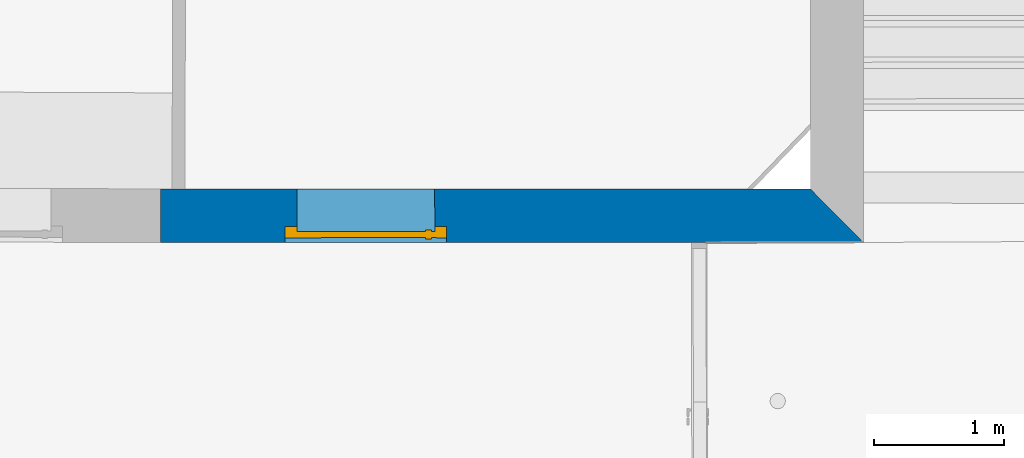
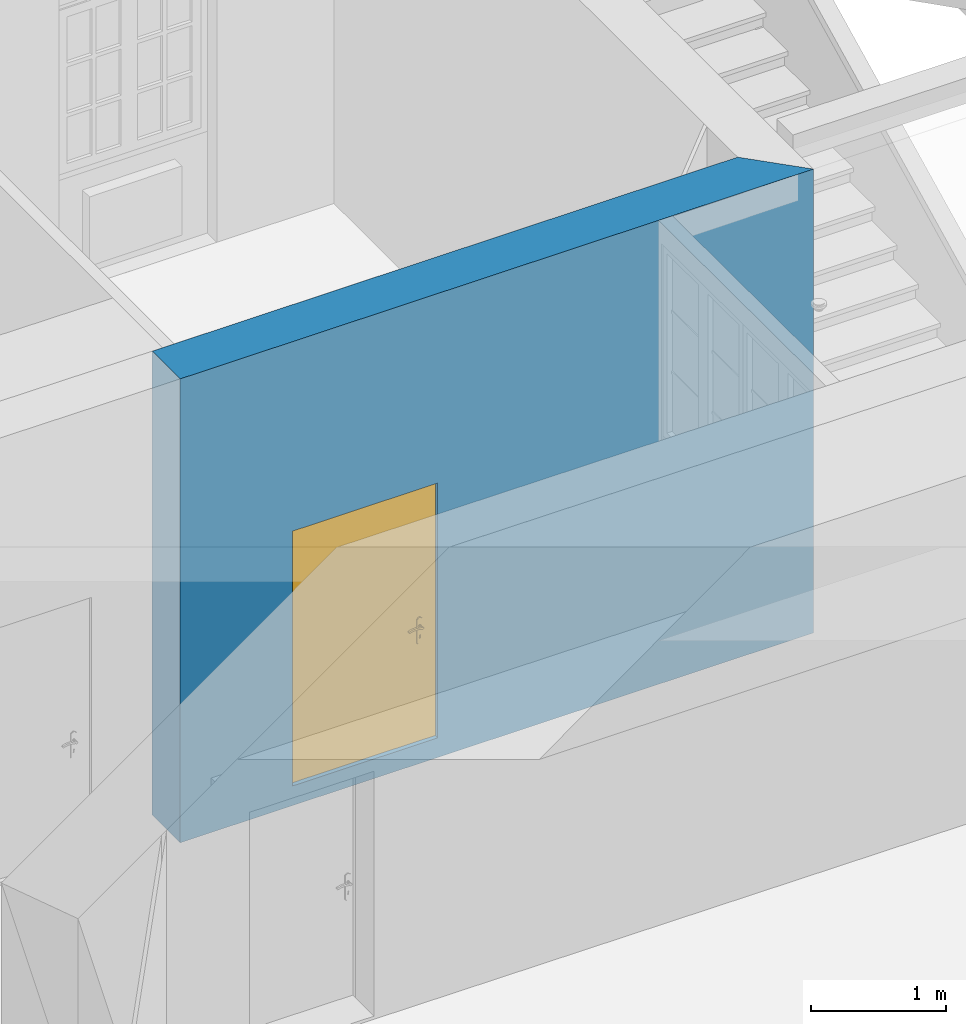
# One storey, part 14 of 90: 1 door, 1 wall, 1 opening.
"""IFC2X3 building model written with IfcOpenShell, lengths in metres."""

from ifc_helpers import new_model, entity, si_unit, converted_unit, derived_unit, money_unit, direction, frame, origin_with_axes, origin_2d_with_axis, place, context, subcontext, project, spatial, polyline, rectangle, outline, extrude, faceted_brep, source, transform, mapped, material, layer, layer_set, layer_usage, type_object, element, fill, save


model = new_model("IFC2X3")

# Units and contexts
model_context = context("Model", 3, precision=1e-05, world=origin_with_axes(), true_north=direction((0.0, 1.0)))
body_context = subcontext(model_context, "Body", "Model", "MODEL_VIEW")
ifc_project = project(units=[si_unit("LENGTHUNIT", "METRE"), si_unit("AREAUNIT", "SQUARE_METRE"), si_unit("VOLUMEUNIT", "CUBIC_METRE"), converted_unit("PLANEANGLEUNIT", "DEGREE", entity("IfcPlaneAngleMeasure", 0.0174532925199), si_unit("PLANEANGLEUNIT", "RADIAN"), dimensions=[0, 0, 0, 0, 0, 0, 0]), money_unit("EUR"), converted_unit("TIMEUNIT", "Year", entity("IfcTimeMeasure", 31556926.0), si_unit("TIMEUNIT", "SECOND"), dimensions=[0, 0, 1, 0, 0, 0, 0]), si_unit("MASSUNIT", "GRAM", prefix="KILO"), si_unit("THERMODYNAMICTEMPERATUREUNIT", "DEGREE_CELSIUS"), si_unit("LUMINOUSINTENSITYUNIT", "LUMEN"), si_unit("ENERGYUNIT", "JOULE", prefix="MEGA"), derived_unit("THERMALCONDUCTANCEUNIT", [(si_unit("POWERUNIT", "WATT"), 1), (si_unit("LENGTHUNIT", "METRE"), -1), (si_unit("THERMODYNAMICTEMPERATUREUNIT", "KELVIN"), -1)]), derived_unit("SPECIFICHEATCAPACITYUNIT", [(si_unit("ENERGYUNIT", "JOULE"), 1), (si_unit("MASSUNIT", "GRAM", prefix="KILO"), -1), (si_unit("THERMODYNAMICTEMPERATUREUNIT", "KELVIN"), -1)]), derived_unit("MASSDENSITYUNIT", [(si_unit("MASSUNIT", "GRAM", prefix="KILO"), 1), (si_unit("VOLUMEUNIT", "CUBIC_METRE"), -1)])], contexts=[model_context])

# Site, building, storey
site_placement = place(None, origin_with_axes())
site = spatial("IfcSite", under=ifc_project, at=site_placement, Name="Gelände", CompositionType="ELEMENT")
building_placement = place(site_placement, origin_with_axes())
building = spatial("IfcBuilding", under=site, at=building_placement, Name="Gebäude", CompositionType="ELEMENT")
storey_placement = place(building_placement, frame((0.0, 0.0, 3.7), z_axis=(0.0, 0.0, 1.0), x_axis=(1.0, 0.0, 0.0)))
storey = spatial("IfcBuildingStorey", under=building, at=storey_placement, Name="1.OBERGESCHOSS", CompositionType="ELEMENT", Elevation=3.7)

# Wall, opening, door
ifc_material = material(Name="05_ALLGEMEIN - TRAGENDE BAUTEILE")
ifc_layer = layer(ifc_material, 0.414615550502, ventilated="UNKNOWN")
ifc_layer_set = layer_set([ifc_layer], Name="05_ALLGEMEIN - TRAGENDE BAUTEILE 0.414616")
ifc_layer_usage = layer_usage(ifc_layer_set, "AXIS2", "NEGATIVE", 0.0)
wall_type = type_object("IfcWallType", Name="05_ALLGEMEIN - TRAGENDE BAUTEILE 415", PredefinedType="ELEMENTEDWALL")
wall_placement = place(storey_placement, frame((-9.84147958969, 19.2506516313, -0.1), z_axis=(0.0, 0.0, 1.0), x_axis=(-0.999999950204, -0.000315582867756, 0.0)))
wall = element("IfcWallStandardCase", 1, at=wall_placement, inside=storey, type_object=wall_type, material=ifc_layer_usage, Name="Wand-038", ObjectType="ELEMENTEDWALL", context=body_context, shape_type="SweptSolid", body=[
    extrude(outline(polyline([(0.409908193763, -0.414615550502), (5.42393767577, -0.414615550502), (5.42483140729, 0.0), (0.0, 0.0), (0.409908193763, -0.414615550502)])), origin_with_axes(), (0.0, 0.0, 1.0), 4.2),
])
opening_placement = place(wall_placement, frame((3.84089263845, 0.0, 0.177598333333), z_axis=(0.0, 0.0, 1.0), x_axis=(1.0, 0.0, 0.0)))
opening = element("IfcOpeningElement", 2, at=opening_placement, cuts=wall, Name="Tür-022", context=body_context, shape_type="SweptSolid", body=[
    extrude(rectangle(XDim=1.06465358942, YDim=2.217251, at=origin_2d_with_axis()), frame((0.0, -0.125636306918, 1.1086255), z_axis=(0.0, 1.0, 0.0), x_axis=(1.0, 0.0, 0.0)), (0.0, 0.0, -1.0), 0.703594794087),
    extrude(rectangle(XDim=1.24465358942, YDim=2.307251, at=origin_2d_with_axis()), frame((0.0, -0.0356363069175, 1.1536255), z_axis=(0.0, -1.0, 0.0), x_axis=(1.0, 0.0, 0.0)), (0.0, 0.0, 1.0), 0.09),
    extrude(rectangle(XDim=1.24465358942, YDim=2.307251, at=origin_2d_with_axis()), frame((0.0, -0.0356363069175, 1.1536255), z_axis=(0.0, -1.0, 0.0), x_axis=(1.0, 0.0, 0.0)), (0.0, 0.0, -1.0), 0.45025185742),
])
door_style = type_object("IfcDoorStyle", Name="Blockrahmentür 1-Fl 25", ConstructionType="NOTDEFINED", OperationType="SINGLE_SWING_RIGHT", ParameterTakesPrecedence=False, Sizeable=False)
shared_shape = source(origin_with_axes(), body_context, "Body", "Brep", [
    faceted_brep([(0.622326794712, -0.09, 0.0), (0.622326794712, -0.05, 0.0), (0.622326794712, -0.05, 2.307251), (0.622326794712, -0.09, 2.307251), (0.532326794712, -0.09, 0.0), (0.532326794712, -0.05, 0.0), (0.532326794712, -0.05, 2.217251), (0.1121, -0.05, 2.217251), (0.0001, -0.05, 2.217251), (-0.532326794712, -0.05, 2.217251), (-0.532326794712, -0.05, 0.0), (-0.622326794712, -0.05, 0.0), (-0.622326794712, -0.05, 2.307251), (-0.622326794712, -0.09, 2.307251), (-0.622326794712, -0.09, 0.0), (-0.532326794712, -0.09, 0.0), (-0.532326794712, -0.09, 2.217251), (0.0001, -0.09, 2.217251), (0.1121, -0.09, 2.217251), (0.532326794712, -0.09, 2.217251)], [[[0, 1, 2, 3]], [[4, 5, 1, 0]], [[1, 5, 6, 7, 8, 9, 10, 11, 12, 2]], [[3, 2, 12, 13]], [[0, 3, 13, 14, 15, 16, 17, 18, 19, 4]], [[19, 6, 5, 4]], [[18, 7, 6, 19]], [[17, 8, 7, 18]], [[16, 9, 8, 17]], [[15, 10, 9, 16]], [[14, 11, 10, 15]], [[13, 12, 11, 14]]]),
    faceted_brep([(0.622326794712, -0.05, 0.0), (0.622326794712, 0.0, 0.0), (0.622326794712, 0.0, 2.307251), (0.622326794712, -0.05, 2.307251), (0.544326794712, -0.05, 0.0), (0.544326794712, 0.0, 0.0), (0.544326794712, 0.0, 2.229251), (0.1001, 0.0, 2.229251), (0.0121, 0.0, 2.229251), (-0.544326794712, 0.0, 2.229251), (-0.544326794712, 0.0, 0.0), (-0.622326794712, 0.0, 0.0), (-0.622326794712, 0.0, 2.307251), (-0.622326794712, -0.05, 2.307251), (-0.622326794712, -0.05, 0.0), (-0.544326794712, -0.05, 0.0), (-0.544326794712, -0.05, 2.229251), (0.0121, -0.05, 2.229251), (0.1001, -0.05, 2.229251), (0.544326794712, -0.05, 2.229251)], [[[0, 1, 2, 3]], [[4, 5, 1, 0]], [[1, 5, 6, 7, 8, 9, 10, 11, 12, 2]], [[3, 2, 12, 13]], [[0, 3, 13, 14, 15, 16, 17, 18, 19, 4]], [[19, 6, 5, 4]], [[18, 7, 6, 19]], [[17, 8, 7, 18]], [[16, 9, 8, 17]], [[15, 10, 9, 16]], [[14, 11, 10, 15]], [[13, 12, 11, 14]]]),
    faceted_brep([(0.544326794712, -0.002, 0.0), (-0.544326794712, -0.002, 0.0), (-0.544326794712, -0.002, 2.229251), (0.544326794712, -0.002, 2.229251), (0.544326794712, -0.05, 0.0), (-0.544326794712, -0.05, 0.0), (-0.544326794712, -0.05, 2.229251), (0.544326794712, -0.05, 2.229251)], [[[0, 1, 2, 3]], [[1, 0, 4, 5]], [[2, 1, 5, 6]], [[3, 2, 6, 7]], [[0, 3, 7, 4]], [[5, 4, 7, 6]]]),
    faceted_brep([(-0.48902907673, -0.09, 1.05647213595), (-0.484326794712, -0.09, 1.058), (-0.484326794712, -0.07, 1.058), (-0.48902907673, -0.07, 1.05647213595), (-0.491935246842, -0.09, 1.05247213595), (-0.491935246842, -0.09, 1.04752786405), (-0.48902907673, -0.09, 1.04352786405), (-0.484326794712, -0.09, 1.042), (-0.479624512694, -0.09, 1.04352786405), (-0.476718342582, -0.09, 1.04752786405), (-0.476718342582, -0.09, 1.05247213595), (-0.479624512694, -0.09, 1.05647213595), (-0.479624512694, -0.07, 1.05647213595), (-0.484326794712, -0.068, 1.06), (-0.490204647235, -0.068, 1.05809016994), (-0.491935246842, -0.07, 1.05247213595), (-0.491935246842, -0.07, 1.04752786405), (-0.48902907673, -0.07, 1.04352786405), (-0.484326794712, -0.07, 1.042), (-0.479624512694, -0.07, 1.04352786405), (-0.476718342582, -0.07, 1.04752786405), (-0.476718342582, -0.07, 1.05247213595), (-0.478448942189, -0.068, 1.05809016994), (-0.484326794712, -0.06, 1.06), (-0.490204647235, -0.06, 1.05809016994), (-0.493837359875, -0.068, 1.05309016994), (-0.493837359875, -0.068, 1.04690983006), (-0.490204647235, -0.068, 1.04190983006), (-0.484326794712, -0.068, 1.04), (-0.478448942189, -0.068, 1.04190983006), (-0.474816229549, -0.068, 1.04690983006), (-0.474816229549, -0.068, 1.05309016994), (-0.478448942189, -0.06, 1.05809016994), (-0.474816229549, -0.06, 1.05309016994), (-0.474816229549, -0.06, 1.04690983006), (-0.478448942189, -0.06, 1.04190983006), (-0.484326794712, -0.06, 1.04), (-0.490204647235, -0.06, 1.04190983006), (-0.493837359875, -0.06, 1.04690983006), (-0.493837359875, -0.06, 1.05309016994)], [[[0, 1, 2, 3]], [[1, 0, 4, 5, 6, 7, 8, 9, 10, 11]], [[1, 11, 12, 2]], [[3, 2, 13, 14]], [[4, 0, 3, 15]], [[5, 4, 15, 16]], [[6, 5, 16, 17]], [[7, 6, 17, 18]], [[8, 7, 18, 19]], [[9, 8, 19, 20]], [[10, 9, 20, 21]], [[11, 10, 21, 12]], [[2, 12, 22, 13]], [[14, 13, 23, 24]], [[15, 3, 14, 25]], [[16, 15, 25, 26]], [[17, 16, 26, 27]], [[18, 17, 27, 28]], [[19, 18, 28, 29]], [[20, 19, 29, 30]], [[21, 20, 30, 31]], [[12, 21, 31, 22]], [[13, 22, 32, 23]], [[23, 32, 33, 34, 35, 36, 37, 38, 39, 24]], [[25, 14, 24, 39]], [[26, 25, 39, 38]], [[27, 26, 38, 37]], [[28, 27, 37, 36]], [[29, 28, 36, 35]], [[30, 29, 35, 34]], [[31, 30, 34, 33]], [[22, 31, 33, 32]]]),
    faceted_brep([(-0.472138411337, -0.06, 1.11759695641), (-0.479883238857, -0.06, 1.12195567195), (-0.488770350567, -0.06, 1.12195567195), (-0.496515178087, -0.06, 1.11759695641), (-0.501126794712, -0.06, 1.11), (-0.506826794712, -0.06, 1.11), (-0.506826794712, -0.06, 0.89), (-0.501126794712, -0.06, 0.89), (-0.496515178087, -0.06, 0.882403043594), (-0.488770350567, -0.06, 0.878044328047), (-0.479883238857, -0.06, 0.878044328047), (-0.472138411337, -0.06, 0.882403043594), (-0.467526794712, -0.06, 0.89), (-0.461826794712, -0.06, 0.89), (-0.461826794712, -0.06, 1.11), (-0.467526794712, -0.06, 1.11), (-0.484326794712, -0.06, 0.967425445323), (-0.478951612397, -0.06, 0.965143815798), (-0.476858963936, -0.06, 0.959692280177), (-0.479326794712, -0.06, 0.9544), (-0.479326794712, -0.06, 0.9375), (-0.480791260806, -0.06, 0.933964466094), (-0.484326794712, -0.06, 0.9325), (-0.487862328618, -0.06, 0.933964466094), (-0.489326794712, -0.06, 0.9375), (-0.489326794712, -0.06, 0.9544), (-0.491794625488, -0.06, 0.959692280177), (-0.489701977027, -0.06, 0.965143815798), (-0.472138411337, -0.05, 1.11759695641), (-0.479883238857, -0.05, 1.12195567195), (-0.488770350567, -0.05, 1.12195567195), (-0.496515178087, -0.05, 1.11759695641), (-0.501126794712, -0.05, 1.11), (-0.506826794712, -0.05, 1.11), (-0.506826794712, -0.05, 0.89), (-0.501126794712, -0.05, 0.89), (-0.496515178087, -0.05, 0.882403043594), (-0.488770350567, -0.05, 0.878044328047), (-0.479883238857, -0.05, 0.878044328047), (-0.472138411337, -0.05, 0.882403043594), (-0.467526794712, -0.05, 0.89), (-0.461826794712, -0.05, 0.89), (-0.461826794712, -0.05, 1.11), (-0.467526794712, -0.05, 1.11), (-0.484326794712, -0.05, 0.967425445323), (-0.478951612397, -0.05, 0.965143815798), (-0.476858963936, -0.05, 0.959692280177), (-0.479326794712, -0.05, 0.9544), (-0.479326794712, -0.05, 0.9375), (-0.480791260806, -0.05, 0.933964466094), (-0.484326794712, -0.05, 0.9325), (-0.487862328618, -0.05, 0.933964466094), (-0.489326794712, -0.05, 0.9375), (-0.489326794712, -0.05, 0.9544), (-0.491794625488, -0.05, 0.959692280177), (-0.489701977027, -0.05, 0.965143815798)], [[[0, 1, 2, 3, 4, 5, 6, 7, 8, 9, 10, 11, 12, 13, 14, 15], [16, 17, 18, 19, 20, 21, 22, 23, 24, 25, 26, 27]], [[1, 0, 28, 29]], [[2, 1, 29, 30]], [[3, 2, 30, 31]], [[4, 3, 31, 32]], [[5, 4, 32, 33]], [[6, 5, 33, 34]], [[7, 6, 34, 35]], [[8, 7, 35, 36]], [[9, 8, 36, 37]], [[10, 9, 37, 38]], [[11, 10, 38, 39]], [[12, 11, 39, 40]], [[13, 12, 40, 41]], [[14, 13, 41, 42]], [[15, 14, 42, 43]], [[0, 15, 43, 28]], [[17, 16, 44, 45]], [[18, 17, 45, 46]], [[19, 18, 46, 47]], [[19, 47, 48, 20]], [[20, 48, 49, 21]], [[21, 49, 50, 22]], [[22, 50, 51, 23]], [[23, 51, 52, 24]], [[53, 25, 24, 52]], [[26, 25, 53, 54]], [[27, 26, 54, 55]], [[16, 27, 55, 44]], [[40, 39, 38, 37, 36, 35, 34, 33, 32, 31, 30, 29, 28, 43, 42, 41], [54, 53, 52, 51, 50, 49, 48, 47, 46, 45, 44, 55]]]),
    faceted_brep([(-0.370073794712, -0.09, 1.057158), (-0.370073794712, -0.105, 1.057158), (-0.370072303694, -0.105, 1.05719388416), (-0.370072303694, -0.09, 1.05719388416), (-0.397101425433, -0.09, 1.06432652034), (-0.397101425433, -0.105, 1.06432652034), (-0.424929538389, -0.105, 1.06706086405), (-0.452835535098, -0.105, 1.06529002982), (-0.480094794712, -0.105, 1.05906), (-0.486497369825, -0.105, 1.05976125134), (-0.491999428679, -0.105, 1.05641280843), (-0.494318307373, -0.105, 1.05040385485), (-0.492491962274, -0.105, 1.04422735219), (-0.487278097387, -0.105, 1.04044577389), (-0.480839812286, -0.105, 1.04062800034), (-0.475848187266, -0.105, 1.04469843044), (-0.475868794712, -0.105, 1.044666), (-0.450580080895, -0.105, 1.05019878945), (-0.424737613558, -0.105, 1.05171460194), (-0.398975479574, -0.105, 1.04917624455), (-0.373925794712, -0.105, 1.042646), (-0.368382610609, -0.105, 1.04356849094), (-0.365021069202, -0.105, 1.04807159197), (-0.365712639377, -0.105, 1.05364829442), (-0.365712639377, -0.09, 1.05364829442), (-0.365021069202, -0.09, 1.04807159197), (-0.368382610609, -0.09, 1.04356849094), (-0.373925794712, -0.09, 1.042646), (-0.398975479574, -0.09, 1.04917624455), (-0.424737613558, -0.09, 1.05171460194), (-0.450580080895, -0.09, 1.05019878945), (-0.475868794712, -0.09, 1.044666), (-0.475848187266, -0.09, 1.04469843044), (-0.480839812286, -0.09, 1.04062800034), (-0.487278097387, -0.09, 1.04044577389), (-0.492491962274, -0.09, 1.04422735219), (-0.494318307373, -0.09, 1.05040385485), (-0.491999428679, -0.09, 1.05641280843), (-0.486497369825, -0.09, 1.05976125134), (-0.480094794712, -0.09, 1.05906), (-0.452835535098, -0.09, 1.06529002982), (-0.424929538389, -0.09, 1.06706086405)], [[[0, 1, 2, 3]], [[4, 5, 1, 0]], [[1, 5, 6, 7, 8, 9, 10, 11, 12, 13, 14, 15, 16, 17, 18, 19, 20, 21, 22, 23, 2]], [[3, 2, 23, 24]], [[0, 3, 24, 25, 26, 27, 28, 29, 30, 31, 32, 33, 34, 35, 36, 37, 38, 39, 40, 41, 4]], [[41, 6, 5, 4]], [[40, 7, 6, 41]], [[39, 8, 7, 40]], [[38, 9, 8, 39]], [[37, 10, 9, 38]], [[36, 11, 10, 37]], [[35, 12, 11, 36]], [[34, 13, 12, 35]], [[33, 14, 13, 34]], [[32, 15, 14, 33]], [[31, 16, 15, 32]], [[30, 17, 16, 31]], [[29, 18, 17, 30]], [[28, 19, 18, 29]], [[27, 20, 19, 28]], [[26, 21, 20, 27]], [[25, 22, 21, 26]], [[24, 23, 22, 25]]]),
    faceted_brep([(-0.48902907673, 0.038, 1.05647213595), (-0.48902907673, 0.018, 1.05647213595), (-0.484326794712, 0.018, 1.058), (-0.484326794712, 0.038, 1.058), (-0.491935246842, 0.038, 1.05247213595), (-0.491935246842, 0.018, 1.05247213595), (-0.490204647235, 0.016, 1.05809016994), (-0.484326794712, 0.016, 1.06), (-0.479624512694, 0.018, 1.05647213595), (-0.479624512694, 0.038, 1.05647213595), (-0.476718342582, 0.038, 1.05247213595), (-0.476718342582, 0.038, 1.04752786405), (-0.479624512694, 0.038, 1.04352786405), (-0.484326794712, 0.038, 1.042), (-0.48902907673, 0.038, 1.04352786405), (-0.491935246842, 0.038, 1.04752786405), (-0.491935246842, 0.018, 1.04752786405), (-0.493837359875, 0.016, 1.05309016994), (-0.490204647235, 0.008, 1.05809016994), (-0.484326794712, 0.008, 1.06), (-0.478448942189, 0.016, 1.05809016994), (-0.476718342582, 0.018, 1.05247213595), (-0.476718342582, 0.018, 1.04752786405), (-0.479624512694, 0.018, 1.04352786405), (-0.484326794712, 0.018, 1.042), (-0.48902907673, 0.018, 1.04352786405), (-0.493837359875, 0.016, 1.04690983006), (-0.493837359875, 0.008, 1.05309016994), (-0.493837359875, 0.008, 1.04690983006), (-0.490204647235, 0.008, 1.04190983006), (-0.484326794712, 0.008, 1.04), (-0.478448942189, 0.008, 1.04190983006), (-0.474816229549, 0.008, 1.04690983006), (-0.474816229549, 0.008, 1.05309016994), (-0.478448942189, 0.008, 1.05809016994), (-0.474816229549, 0.016, 1.05309016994), (-0.474816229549, 0.016, 1.04690983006), (-0.478448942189, 0.016, 1.04190983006), (-0.484326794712, 0.016, 1.04), (-0.490204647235, 0.016, 1.04190983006)], [[[0, 1, 2, 3]], [[4, 5, 1, 0]], [[1, 6, 7, 2]], [[3, 2, 8, 9]], [[3, 9, 10, 11, 12, 13, 14, 15, 4, 0]], [[15, 16, 5, 4]], [[5, 17, 6, 1]], [[6, 18, 19, 7]], [[2, 7, 20, 8]], [[9, 8, 21, 10]], [[10, 21, 22, 11]], [[11, 22, 23, 12]], [[12, 23, 24, 13]], [[13, 24, 25, 14]], [[14, 25, 16, 15]], [[16, 26, 17, 5]], [[17, 27, 18, 6]], [[19, 18, 27, 28, 29, 30, 31, 32, 33, 34]], [[7, 19, 34, 20]], [[8, 20, 35, 21]], [[21, 35, 36, 22]], [[22, 36, 37, 23]], [[23, 37, 38, 24]], [[24, 38, 39, 25]], [[25, 39, 26, 16]], [[26, 28, 27, 17]], [[39, 29, 28, 26]], [[38, 30, 29, 39]], [[37, 31, 30, 38]], [[36, 32, 31, 37]], [[35, 33, 32, 36]], [[20, 34, 33, 35]]]),
    faceted_brep([(-0.472138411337, -0.002, 1.11759695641), (-0.479883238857, -0.002, 1.12195567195), (-0.488770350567, -0.002, 1.12195567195), (-0.496515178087, -0.002, 1.11759695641), (-0.501126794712, -0.002, 1.11), (-0.506826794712, -0.002, 1.11), (-0.506826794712, -0.002, 0.89), (-0.501126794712, -0.002, 0.89), (-0.496515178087, -0.002, 0.882403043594), (-0.488770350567, -0.002, 0.878044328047), (-0.479883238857, -0.002, 0.878044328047), (-0.472138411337, -0.002, 0.882403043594), (-0.467526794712, -0.002, 0.89), (-0.461826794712, -0.002, 0.89), (-0.461826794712, -0.002, 1.11), (-0.467526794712, -0.002, 1.11), (-0.484326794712, -0.002, 0.967425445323), (-0.478951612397, -0.002, 0.965143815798), (-0.476858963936, -0.002, 0.959692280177), (-0.479326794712, -0.002, 0.9544), (-0.479326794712, -0.002, 0.9375), (-0.480791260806, -0.002, 0.933964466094), (-0.484326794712, -0.002, 0.9325), (-0.487862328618, -0.002, 0.933964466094), (-0.489326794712, -0.002, 0.9375), (-0.489326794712, -0.002, 0.9544), (-0.491794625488, -0.002, 0.959692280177), (-0.489701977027, -0.002, 0.965143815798), (-0.479883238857, 0.008, 1.12195567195), (-0.472138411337, 0.008, 1.11759695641), (-0.488770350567, 0.008, 1.12195567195), (-0.496515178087, 0.008, 1.11759695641), (-0.501126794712, 0.008, 1.11), (-0.506826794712, 0.008, 1.11), (-0.506826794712, 0.008, 0.89), (-0.501126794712, 0.008, 0.89), (-0.496515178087, 0.008, 0.882403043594), (-0.488770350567, 0.008, 0.878044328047), (-0.479883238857, 0.008, 0.878044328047), (-0.472138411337, 0.008, 0.882403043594), (-0.467526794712, 0.008, 0.89), (-0.461826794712, 0.008, 0.89), (-0.461826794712, 0.008, 1.11), (-0.467526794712, 0.008, 1.11), (-0.484326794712, 0.008, 0.967425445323), (-0.478951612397, 0.008, 0.965143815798), (-0.476858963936, 0.008, 0.959692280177), (-0.479326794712, 0.008, 0.9544), (-0.479326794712, 0.008, 0.9375), (-0.480791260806, 0.008, 0.933964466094), (-0.484326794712, 0.008, 0.9325), (-0.487862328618, 0.008, 0.933964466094), (-0.489326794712, 0.008, 0.9375), (-0.489326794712, 0.008, 0.9544), (-0.491794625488, 0.008, 0.959692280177), (-0.489701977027, 0.008, 0.965143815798)], [[[0, 1, 2, 3, 4, 5, 6, 7, 8, 9, 10, 11, 12, 13, 14, 15], [16, 17, 18, 19, 20, 21, 22, 23, 24, 25, 26, 27]], [[28, 1, 0, 29]], [[30, 2, 1, 28]], [[31, 3, 2, 30]], [[32, 4, 3, 31]], [[33, 5, 4, 32]], [[34, 6, 5, 33]], [[35, 7, 6, 34]], [[36, 8, 7, 35]], [[37, 9, 8, 36]], [[38, 10, 9, 37]], [[39, 11, 10, 38]], [[40, 12, 11, 39]], [[41, 13, 12, 40]], [[42, 14, 13, 41]], [[43, 15, 14, 42]], [[29, 0, 15, 43]], [[17, 16, 44, 45]], [[18, 17, 45, 46]], [[19, 18, 46, 47]], [[19, 47, 48, 20]], [[20, 48, 49, 21]], [[21, 49, 50, 22]], [[22, 50, 51, 23]], [[23, 51, 52, 24]], [[53, 25, 24, 52]], [[26, 25, 53, 54]], [[27, 26, 54, 55]], [[16, 27, 55, 44]], [[40, 39, 38, 37, 36, 35, 34, 33, 32, 31, 30, 28, 29, 43, 42, 41], [54, 53, 52, 51, 50, 49, 48, 47, 46, 45, 44, 55]]]),
    faceted_brep([(-0.370073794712, 0.038, 1.057158), (-0.370072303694, 0.038, 1.05719388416), (-0.370072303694, 0.053, 1.05719388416), (-0.370073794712, 0.053, 1.057158), (-0.397101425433, 0.038, 1.06432652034), (-0.424929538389, 0.038, 1.06706086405), (-0.452835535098, 0.038, 1.06529002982), (-0.480094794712, 0.038, 1.05906), (-0.486497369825, 0.038, 1.05976125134), (-0.491999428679, 0.038, 1.05641280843), (-0.494318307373, 0.038, 1.05040385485), (-0.492491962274, 0.038, 1.04422735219), (-0.487278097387, 0.038, 1.04044577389), (-0.480839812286, 0.038, 1.04062800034), (-0.475848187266, 0.038, 1.04469843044), (-0.475868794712, 0.038, 1.044666), (-0.450580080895, 0.038, 1.05019878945), (-0.424737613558, 0.038, 1.05171460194), (-0.398975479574, 0.038, 1.04917624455), (-0.373925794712, 0.038, 1.042646), (-0.368382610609, 0.038, 1.04356849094), (-0.365021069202, 0.038, 1.04807159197), (-0.365712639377, 0.038, 1.05364829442), (-0.365712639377, 0.053, 1.05364829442), (-0.365021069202, 0.053, 1.04807159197), (-0.368382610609, 0.053, 1.04356849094), (-0.373925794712, 0.053, 1.042646), (-0.398975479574, 0.053, 1.04917624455), (-0.424737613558, 0.053, 1.05171460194), (-0.450580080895, 0.053, 1.05019878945), (-0.475868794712, 0.053, 1.044666), (-0.475848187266, 0.053, 1.04469843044), (-0.480839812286, 0.053, 1.04062800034), (-0.487278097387, 0.053, 1.04044577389), (-0.492491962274, 0.053, 1.04422735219), (-0.494318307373, 0.053, 1.05040385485), (-0.491999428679, 0.053, 1.05641280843), (-0.486497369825, 0.053, 1.05976125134), (-0.480094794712, 0.053, 1.05906), (-0.452835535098, 0.053, 1.06529002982), (-0.424929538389, 0.053, 1.06706086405), (-0.397101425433, 0.053, 1.06432652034)], [[[0, 1, 2, 3]], [[0, 4, 5, 6, 7, 8, 9, 10, 11, 12, 13, 14, 15, 16, 17, 18, 19, 20, 21, 22, 1]], [[1, 22, 23, 2]], [[3, 2, 23, 24, 25, 26, 27, 28, 29, 30, 31, 32, 33, 34, 35, 36, 37, 38, 39, 40, 41]], [[4, 0, 3, 41]], [[5, 4, 41, 40]], [[6, 5, 40, 39]], [[7, 6, 39, 38]], [[8, 7, 38, 37]], [[9, 8, 37, 36]], [[10, 9, 36, 35]], [[11, 10, 35, 34]], [[12, 11, 34, 33]], [[13, 12, 33, 32]], [[14, 13, 32, 31]], [[15, 14, 31, 30]], [[16, 15, 30, 29]], [[17, 16, 29, 28]], [[18, 17, 28, 27]], [[19, 18, 27, 26]], [[20, 19, 26, 25]], [[21, 20, 25, 24]], [[22, 21, 24, 23]]]),
])
door_placement = place(opening_placement, frame((-0.532326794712, 0.0, 0.0), z_axis=(0.0, 0.0, 1.0), x_axis=(1.0, 0.0, 0.0)))
door = element("IfcDoor", 3, at=door_placement, inside=storey, type_object=door_style, Name="Tür-022", ObjectType="NOTDEFINED", OverallHeight=2.30725, OverallWidth=1.24465, context=body_context, shape_type="MappedRepresentation", body=[
    mapped(shared_shape, transform((0.532326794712, -0.0356363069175, 0.0))),
])
fill(opening, door)

save(model, "model.ifc")
